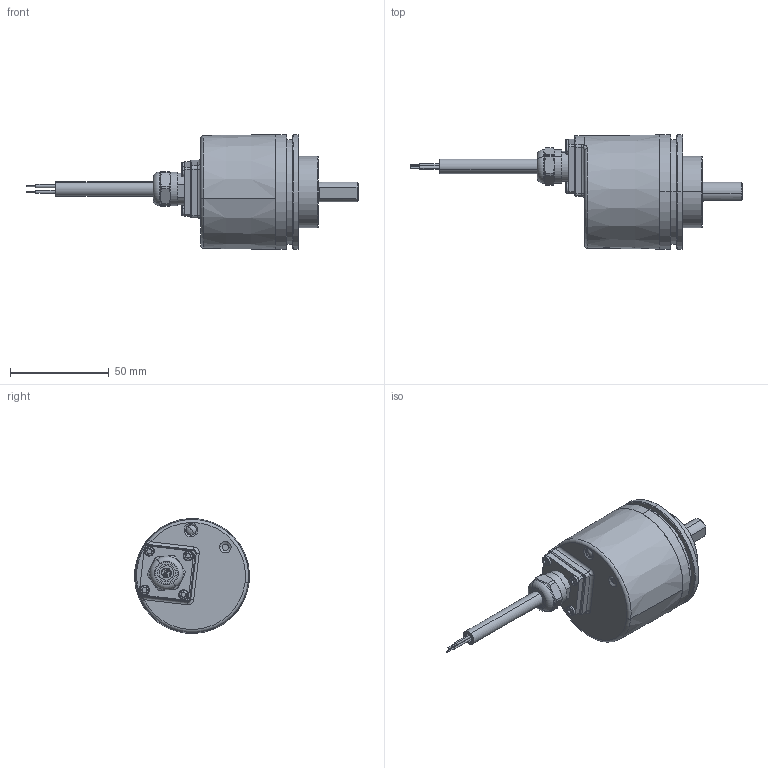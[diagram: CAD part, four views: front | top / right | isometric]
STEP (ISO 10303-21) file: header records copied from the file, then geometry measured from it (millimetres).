
FILE_DESCRIPTION (( 'STEP AP214' ), '1' );
FILE_NAME ('5863SIL.12X1.XXXX.STEP', '2010-11-03T07:36:37', ( 'admin' ), ( 'Fritz Kübler GmbH' ), 'SwSTEP 2.0', 'SolidWorks 2009', '' );
FILE_SCHEMA (( 'AUTOMOTIVE_DESIGN' ));
Length unit declared in the file: millimetre
Products named in the file (1): 5863SIL.12X1.XXXX
Bounding box: 167.7 x 58 x 58 mm (x, y, z)
Surface area: 23996 mm2 (no closed solid volume)
Topology: 0 solids, 13 shells, 258 faces, 653 edges, 415 vertices
Faces by surface type: plane 92, cylinder 78, cone 46, torus 28, sphere 10, bspline 4
Entity records: 11351 total; most frequent: CARTESIAN_POINT 2106, DIRECTION 1479, ORIENTED_EDGE 1200, EDGE_CURVE 653, AXIS2_PLACEMENT_3D 611, VERTEX_POINT 415, CIRCLE 356, EDGE_LOOP 292
